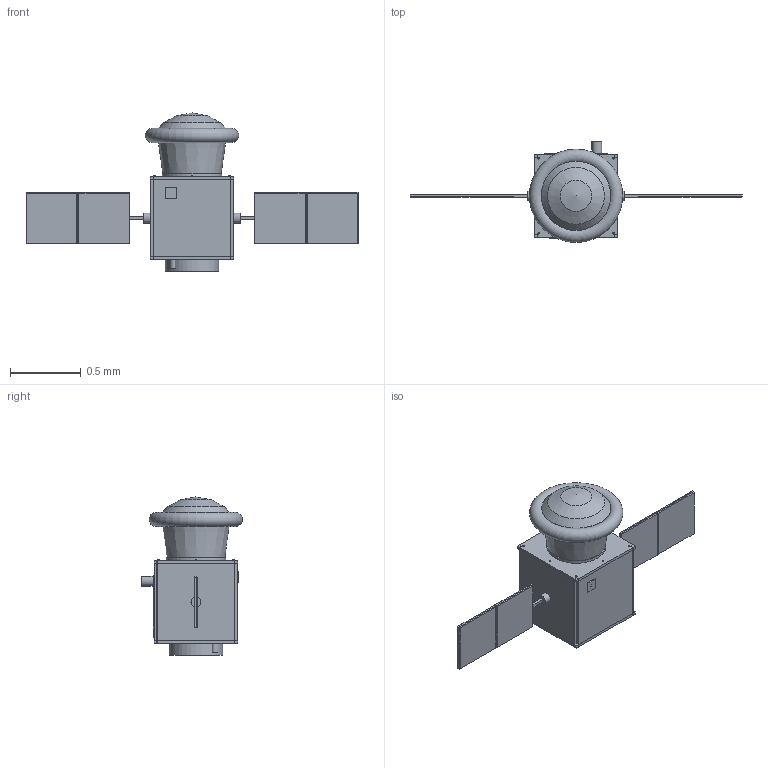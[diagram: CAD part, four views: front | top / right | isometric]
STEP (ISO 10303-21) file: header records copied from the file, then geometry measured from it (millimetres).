
FILE_DESCRIPTION(('Open CASCADE Model'),'2;1');
FILE_NAME('Open CASCADE Shape Model','2026-10-04T09:23:47',('Author'),( 'Open CASCADE'),'Open CASCADE STEP processor 7.9','Open CASCADE 7.9' ,'Unknown');
FILE_SCHEMA(('AUTOMOTIVE_DESIGN { 1 0 10303 214 1 1 1 1 }'));
Length unit declared in the file: millimetre
Products named in the file (184): SP-ORG-detail; capsule_backshell; nose; heat_shield__packed_; sample_drawer; sample_cassette_1; sample_cassette_2; optical_window; capsule_avionics_and_hold_battery; parachute_canister; recovery_beacon; separation_interface; radiator__pY_face_; experiment_instruments__microscope__pumps__reservoirs_; propellant_tank__LMPm103S_; battery; onmboard_computer_and_radios; reaction_wheel_1; reaction_wheel_2; reaction_wheel_3; magnetorquer_1; magnetorquer_2; star_tracker; Smband_antenna; 22_N_thruster_1; 22_N_thruster_2; launch_separation_ring; array_drive_mX; yoke_mX; solar_panel_mX1; panel_frame_mX1; solar_panel_mX2; panel_frame_mX2; array_drive_pX; yoke_pX; solar_panel_pX1; panel_frame_pX1; solar_panel_pX2; panel_frame_pX2; top_deck__honeycomb_20_mm_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
Assembly tree (183 placements, depth 2):
  SP-ORG-detail
    capsule_backshell
    nose
    heat_shield__packed_
    sample_drawer
    sample_cassette_1
    sample_cassette_2
    optical_window
    capsule_avionics_and_hold_battery
    parachute_canister
    recovery_beacon
    separation_interface
    radiator__pY_face_
    experiment_instruments__microscope__pumps__reservoirs_
    propellant_tank__LMPm103S_
    battery
    onmboard_computer_and_radios
    reaction_wheel_1
    reaction_wheel_2
    reaction_wheel_3
    magnetorquer_1
    magnetorquer_2
    star_tracker
    Smband_antenna
    22_N_thruster_1
    22_N_thruster_2
    launch_separation_ring
    array_drive_mX
    yoke_mX
    solar_panel_mX1
    panel_frame_mX1
    solar_panel_mX2
    panel_frame_mX2
    array_drive_pX
    yoke_pX
    solar_panel_pX1
    panel_frame_pX1
    solar_panel_pX2
    panel_frame_pX2
    top_deck__honeycomb_20_mm_
    bottom_deck__honeycomb_20_mm_
    side_panel_pX
    side_panel_mX
    side_panel_pY
    central_thrust_tube__CFRP__4_mm_
    longeron_mXmY__Lmangle_24_x_24_x_4_mm_
    longeron_mXpY__Lmangle_24_x_24_x_4_mm_
    longeron_pXmY__Lmangle_24_x_24_x_4_mm_
    longeron_pXpY__Lmangle_24_x_24_x_4_mm_
    tank_equator_ring
    bracket__experiment_instruments
    bracket__battery
    bracket__onmboard_computer_and_radios
    bracket__reaction_wheel_1
    bracket__reaction_wheel_2
    bracket__reaction_wheel_3
    fastener_deck_zm0_01_m1m1
    fastener_deck_zm0_01_m10
    fastener_deck_zm0_01_m11
    fastener_deck_zm0_01_0m1
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Bounding box: 2.35 x 0.72 x 1.12 mm (x, y, z)
Volume: 0.2 mm3; surface area: 12.9 mm2
Topology: 183 solids, 183 shells, 568 faces, 911 edges, 606 vertices
Faces by surface type: plane 415, cylinder 98, sphere 50, cone 4, torus 1
Full cylindrical faces by diameter (mm): 0.01 x16, 0.012 x62, 0.024 x2, 0.04 x1, 0.045 x2, 0.07 x3, 0.09 x3, 0.14 x1, 0.269 x1, 0.341 x1, 0.373 x2, 0.381 x2, 0.423 x1, 0.491 x1
Entity records: 26222 total; most frequent: DIRECTION 3978, CARTESIAN_POINT 3596, LINE 1873, VECTOR 1873, ORIENTED_EDGE 1520, PCURVE 1520, DEFINITIONAL_REPRESENTATION 1520, AXIS2_PLACEMENT_3D 954
